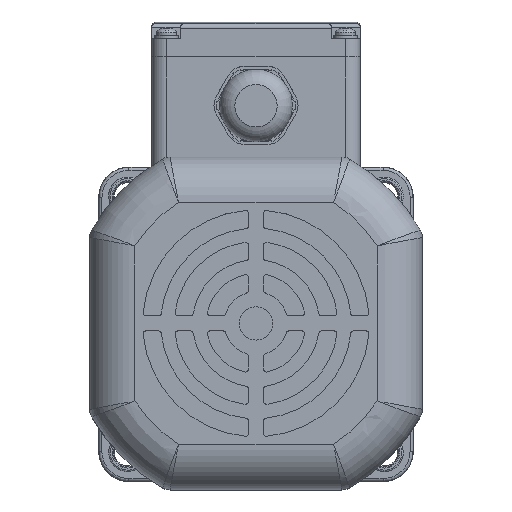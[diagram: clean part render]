
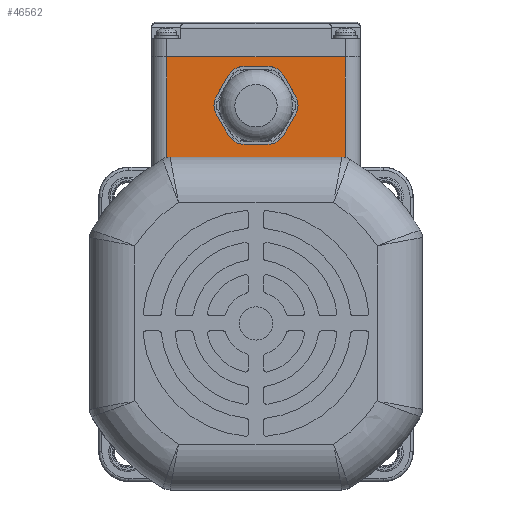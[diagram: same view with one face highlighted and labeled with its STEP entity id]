
A CAD part, top view. The second image highlights one B-rep face of the part: STEP entity #46562.
In plain terms, the highlighted planar face has unit normal (0, -0.009, 1) as drawn and (0, 0, 1) by its records, which use the part's own axes.
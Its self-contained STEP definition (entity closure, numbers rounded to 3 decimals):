
#5286 = CARTESIAN_POINT ( 'NONE',  ( -34.5, 0., 37.5 ) ) ;
#9013 = DIRECTION ( 'NONE',  ( 1., 0., 0. ) ) ;
#9781 = VECTOR ( 'NONE', #9013, 1000. ) ;
#10008 = CARTESIAN_POINT ( 'NONE',  ( -29.5, 0., 37.5 ) ) ;
#11267 = EDGE_CURVE ( 'NONE', #28213, #15575, #26789, .T. ) ;
#12651 = CARTESIAN_POINT ( 'NONE',  ( 29.5, 36., 37.5 ) ) ;
#13200 = CARTESIAN_POINT ( 'NONE',  ( -34.5, 0., 37.5 ) ) ;
#13958 = LINE ( 'NONE', #10008, #19825 ) ;
#14357 = ORIENTED_EDGE ( 'NONE', *, *, #30304, .T. ) ;
#14595 = CARTESIAN_POINT ( 'NONE',  ( 29.5, 0., 37.5 ) ) ;
#15575 = VERTEX_POINT ( 'NONE', #12651 ) ;
#16655 = DIRECTION ( 'NONE',  ( 0., 0., 1. ) ) ;
#17149 = LINE ( 'NONE', #13200, #9781 ) ;
#19825 = VECTOR ( 'NONE', #29029, 1000. ) ;
#23038 = ORIENTED_EDGE ( 'NONE', *, *, #44372, .T. ) ;
#24076 = FACE_OUTER_BOUND ( 'NONE', #42930, .T. ) ;
#26789 = LINE ( 'NONE', #45819, #31312 ) ;
#27275 = DIRECTION ( 'NONE',  ( 0., 1., 0. ) ) ;
#28213 = VERTEX_POINT ( 'NONE', #14595 ) ;
#29029 = DIRECTION ( 'NONE',  ( 0., -1., 0. ) ) ;
#29750 = CARTESIAN_POINT ( 'NONE',  ( -29.5, 0., 37.5 ) ) ;
#30304 = EDGE_CURVE ( 'NONE', #40376, #28213, #17149, .T. ) ;
#31312 = VECTOR ( 'NONE', #27275, 1000. ) ;
#31722 = DIRECTION ( 'NONE',  ( 1., 0., 0. ) ) ;
#33448 = CARTESIAN_POINT ( 'NONE',  ( -29.5, 36., 37.5 ) ) ;
#33871 = LINE ( 'NONE', #34366, #42872 ) ;
#34366 = CARTESIAN_POINT ( 'NONE',  ( -34.5, 36., 37.5 ) ) ;
#35681 = AXIS2_PLACEMENT_3D ( 'NONE', #5286, #16655, #31722 ) ;
#38780 = EDGE_CURVE ( 'NONE', #48762, #15575, #33871, .T. ) ;
#39153 = PLANE ( 'NONE',  #35681 ) ;
#40376 = VERTEX_POINT ( 'NONE', #29750 ) ;
#42198 = ORIENTED_EDGE ( 'NONE', *, *, #38780, .F. ) ;
#42288 = ORIENTED_EDGE ( 'NONE', *, *, #11267, .T. ) ;
#42528 = DIRECTION ( 'NONE',  ( 1., 0., 0. ) ) ;
#42872 = VECTOR ( 'NONE', #42528, 1000. ) ;
#42930 = EDGE_LOOP ( 'NONE', ( #42198, #23038, #14357, #42288 ) ) ;
#44372 = EDGE_CURVE ( 'NONE', #48762, #40376, #13958, .T. ) ;
#45819 = CARTESIAN_POINT ( 'NONE',  ( 29.5, 36., 37.5 ) ) ;
#46562 = ADVANCED_FACE ( 'NONE', ( #24076 ), #39153, .T. ) ;
#48762 = VERTEX_POINT ( 'NONE', #33448 ) ;
